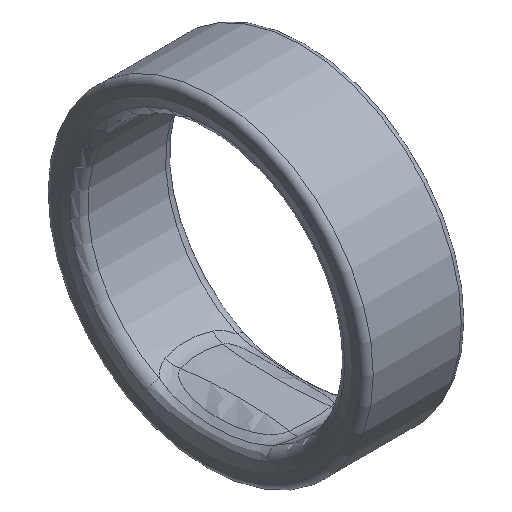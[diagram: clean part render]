
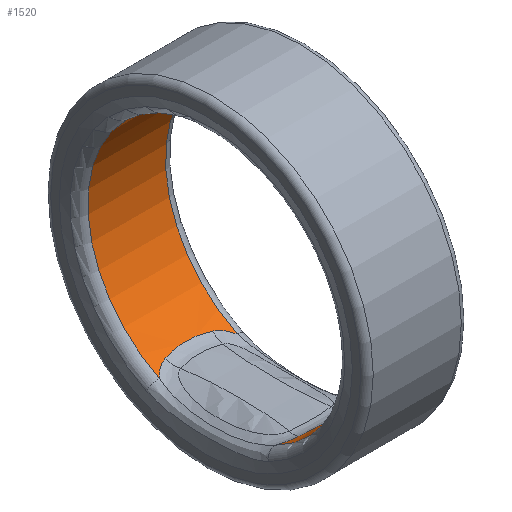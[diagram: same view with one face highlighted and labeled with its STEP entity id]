
A CAD part, isometric view. The second image highlights one B-rep face of the part: STEP entity #1520.
In plain terms, the highlighted cylindrical face has radius 10.425 mm (diameter 20.851 mm), a partial arc.
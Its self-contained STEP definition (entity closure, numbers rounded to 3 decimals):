
#209=CYLINDRICAL_SURFACE('',#1637,10.425);
#220=B_SPLINE_CURVE_WITH_KNOTS('',3,(#2043,#2044,#2045,#2046,#2047),
 .UNSPECIFIED.,.F.,.F.,(4,1,4),(-1.111,-0.987,-0.971),
 .UNSPECIFIED.);
#221=B_SPLINE_CURVE_WITH_KNOTS('',3,(#2049,#2050,#2051,#2052),
 .UNSPECIFIED.,.F.,.F.,(4,4),(-0.4,-0.01),
 .UNSPECIFIED.);
#222=B_SPLINE_CURVE_WITH_KNOTS('',3,(#2054,#2055,#2056,#2057,#2058),
 .UNSPECIFIED.,.F.,.F.,(4,1,4),(-0.14,-0.075,
0.),.UNSPECIFIED.);
#223=B_SPLINE_CURVE_WITH_KNOTS('',3,(#2062,#2063,#2064,#2065,#2066),
 .UNSPECIFIED.,.F.,.F.,(4,1,4),(-1.115,-1.016,-0.976),
 .UNSPECIFIED.);
#224=B_SPLINE_CURVE_WITH_KNOTS('',3,(#2068,#2069,#2070,#2071),
 .UNSPECIFIED.,.F.,.F.,(4,4),(-0.39,0.),
 .UNSPECIFIED.);
#225=B_SPLINE_CURVE_WITH_KNOTS('',3,(#2072,#2073,#2074,#2075),
 .UNSPECIFIED.,.F.,.F.,(4,4),(-0.14,0.),
 .UNSPECIFIED.);
#394=FACE_OUTER_BOUND('',#489,.T.);
#489=EDGE_LOOP('',(#1043,#1044,#1045,#1046,#1047,#1048,#1049,#1050));
#595=CIRCLE('',#1633,10.425);
#599=CIRCLE('',#1638,10.425);
#638=VERTEX_POINT('',#1969);
#639=VERTEX_POINT('',#1971);
#642=VERTEX_POINT('',#2042);
#643=VERTEX_POINT('',#2048);
#644=VERTEX_POINT('',#2053);
#645=VERTEX_POINT('',#2059);
#646=VERTEX_POINT('',#2061);
#647=VERTEX_POINT('',#2067);
#795=EDGE_CURVE('',#638,#639,#595,.T.);
#801=EDGE_CURVE('',#642,#638,#220,.T.);
#802=EDGE_CURVE('',#643,#642,#221,.T.);
#803=EDGE_CURVE('',#644,#643,#222,.T.);
#804=EDGE_CURVE('',#645,#644,#599,.T.);
#805=EDGE_CURVE('',#646,#645,#223,.T.);
#806=EDGE_CURVE('',#647,#646,#224,.T.);
#807=EDGE_CURVE('',#639,#647,#225,.T.);
#1043=ORIENTED_EDGE('',*,*,#795,.F.);
#1044=ORIENTED_EDGE('',*,*,#801,.F.);
#1045=ORIENTED_EDGE('',*,*,#802,.F.);
#1046=ORIENTED_EDGE('',*,*,#803,.F.);
#1047=ORIENTED_EDGE('',*,*,#804,.F.);
#1048=ORIENTED_EDGE('',*,*,#805,.F.);
#1049=ORIENTED_EDGE('',*,*,#806,.F.);
#1050=ORIENTED_EDGE('',*,*,#807,.F.);
#1520=ADVANCED_FACE('',(#394),#209,.F.);
#1633=AXIS2_PLACEMENT_3D('',#1972,#1725,#1726);
#1637=AXIS2_PLACEMENT_3D('',#2041,#1733,#1734);
#1638=AXIS2_PLACEMENT_3D('',#2060,#1735,#1736);
#1725=DIRECTION('center_axis',(-1.,0.,0.));
#1726=DIRECTION('ref_axis',(0.,0.,
1.));
#1733=DIRECTION('center_axis',(1.,0.,0.));
#1734=DIRECTION('ref_axis',(0.,0.,1.));
#1735=DIRECTION('center_axis',(1.,0.,0.));
#1736=DIRECTION('ref_axis',(0.,0.,1.));
#1969=CARTESIAN_POINT('',(3.13,-4.65,-9.331));
#1971=CARTESIAN_POINT('',(3.13,4.65,-9.331));
#1972=CARTESIAN_POINT('Origin',(3.13,0.,
0.));
#2041=CARTESIAN_POINT('Origin',(3.993,0.,
0.));
#2042=CARTESIAN_POINT('',(1.93,-5.41,-8.912));
#2043=CARTESIAN_POINT('Ctrl Pts',(1.93,-5.41,-8.912));
#2044=CARTESIAN_POINT('Ctrl Pts',(2.331,-5.309,-8.974));
#2045=CARTESIAN_POINT('Ctrl Pts',(2.76,-5.061,-9.121));
#2046=CARTESIAN_POINT('Ctrl Pts',(3.093,-4.694,-9.308));
#2047=CARTESIAN_POINT('Ctrl Pts',(3.13,-4.65,-9.33));
#2048=CARTESIAN_POINT('',(-1.94,-5.41,-8.911));
#2049=CARTESIAN_POINT('Ctrl Pts',(-1.94,-5.41,-8.911));
#2050=CARTESIAN_POINT('Ctrl Pts',(-0.675,-5.725,
-8.721));
#2051=CARTESIAN_POINT('Ctrl Pts',(0.665,-5.725,-8.721));
#2052=CARTESIAN_POINT('Ctrl Pts',(1.93,-5.41,-8.912));
#2053=CARTESIAN_POINT('',(-3.13,-4.66,-9.326));
#2054=CARTESIAN_POINT('Ctrl Pts',(-3.13,-4.66,-9.326));
#2055=CARTESIAN_POINT('Ctrl Pts',(-2.981,-4.831,-9.241));
#2056=CARTESIAN_POINT('Ctrl Pts',(-2.62,-5.159,-9.062));
#2057=CARTESIAN_POINT('Ctrl Pts',(-2.185,-5.35,-8.948));
#2058=CARTESIAN_POINT('Ctrl Pts',(-1.94,-5.41,-8.911));
#2059=CARTESIAN_POINT('',(-3.13,4.66,-9.326));
#2060=CARTESIAN_POINT('Origin',(-3.13,0.,
0.));
#2061=CARTESIAN_POINT('',(-1.94,5.41,-8.912));
#2062=CARTESIAN_POINT('Ctrl Pts',(-1.94,5.41,-8.912));
#2063=CARTESIAN_POINT('Ctrl Pts',(-2.263,5.33,-8.96));
#2064=CARTESIAN_POINT('Ctrl Pts',(-2.692,5.11,-9.093));
#2065=CARTESIAN_POINT('Ctrl Pts',(-3.038,4.767,-9.272));
#2066=CARTESIAN_POINT('Ctrl Pts',(-3.13,4.66,-9.326));
#2067=CARTESIAN_POINT('',(1.93,5.41,-8.911));
#2068=CARTESIAN_POINT('Ctrl Pts',(1.93,5.41,-8.911));
#2069=CARTESIAN_POINT('Ctrl Pts',(0.663,5.725,-8.72));
#2070=CARTESIAN_POINT('Ctrl Pts',(-0.673,5.725,-8.72));
#2071=CARTESIAN_POINT('Ctrl Pts',(-1.94,5.41,-8.912));
#2072=CARTESIAN_POINT('Ctrl Pts',(3.128,4.648,-9.332));
#2073=CARTESIAN_POINT('Ctrl Pts',(2.802,5.025,-9.143));
#2074=CARTESIAN_POINT('Ctrl Pts',(2.398,5.304,-8.976));
#2075=CARTESIAN_POINT('Ctrl Pts',(1.93,5.41,-8.911));
